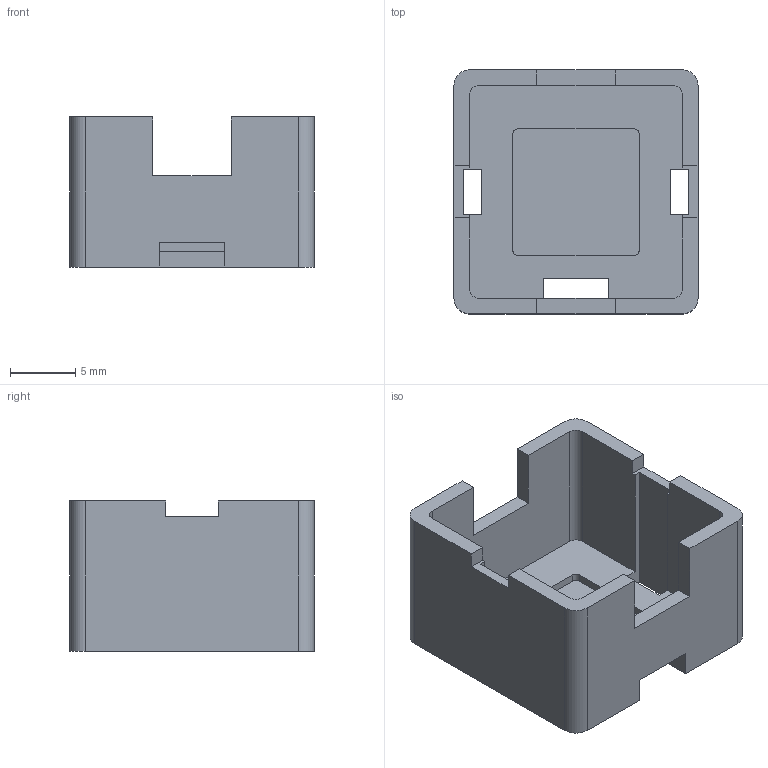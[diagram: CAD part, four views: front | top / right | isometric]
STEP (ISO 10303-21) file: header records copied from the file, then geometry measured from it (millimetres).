
FILE_DESCRIPTION(('Open CASCADE Model'),'2;1');
FILE_NAME('Open CASCADE Shape Model','2026-09-14T20:55:59',('Author'),( 'Open CASCADE'),'Open CASCADE STEP processor 7.9','Open CASCADE 7.9' ,'Unknown');
FILE_SCHEMA(('AUTOMOTIVE_DESIGN { 1 0 10303 214 1 1 1 1 }'));
Length unit declared in the file: millimetre
Products named in the file (1): Open CASCADE STEP translator 7.9 2
Bounding box: 18.7 x 18.7 x 11.5 mm (x, y, z)
Volume: 1081.5 mm3; surface area: 2122.2 mm2
Topology: 1 solids, 1 shells, 57 faces, 174 edges, 116 vertices
Faces by surface type: plane 45, cylinder 12
Entity records: 4076 total; most frequent: CARTESIAN_POINT 908, DIRECTION 490, ORIENTED_EDGE 348, PCURVE 348, DEFINITIONAL_REPRESENTATION 348, LINE 310, VECTOR 310, EDGE_CURVE 174
